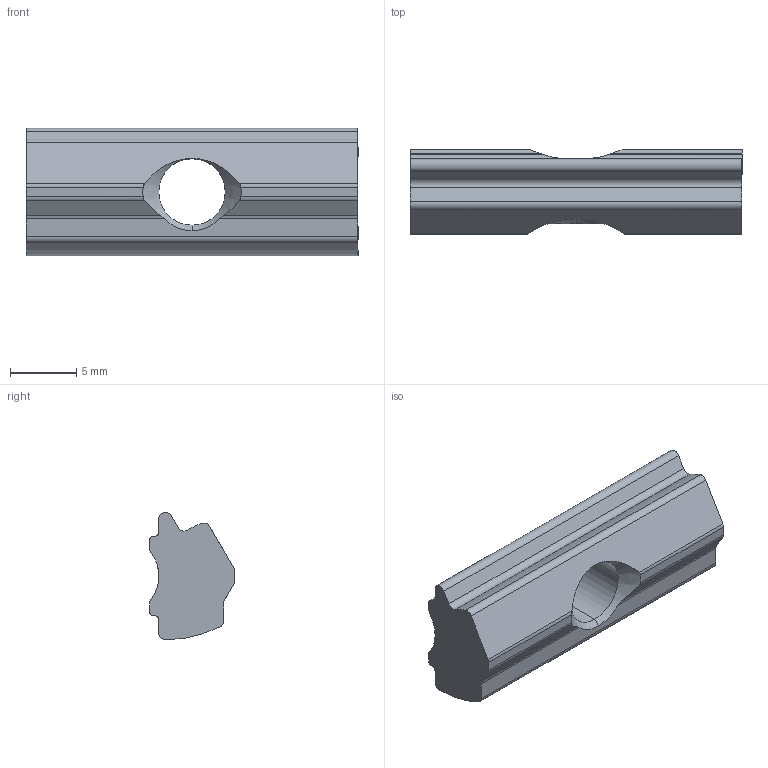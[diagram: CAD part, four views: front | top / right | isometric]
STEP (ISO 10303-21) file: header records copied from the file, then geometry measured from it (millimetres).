
FILE_DESCRIPTION((''),'2;1');
FILE_NAME('E:\端から修正\NAMT-06-5.stp','2013-11-07T16:16:23',('AMS8'),(''),'Autodesk Inventor 2008','Autodesk Inventor 2008','');
FILE_SCHEMA(('AUTOMOTIVE_DESIGN { 1 0 10303 214 1 1 1 1 }'));
Length unit declared in the file: millimetre
Products named in the file (4): NAST-06-5; DEFAULT; DEFAULTA
Assembly tree (3 placements, depth 3):
  NAST-06-5
    DEFAULT
      DEFAULT
      DEFAULTA
Bounding box: 25 x 6.4 x 9.6 mm (x, y, z)
Volume: 982.7 mm3; surface area: 817.2 mm2
Topology: 1 solids, 1 shells, 52 faces, 168 edges, 116 vertices
Faces by surface type: cylinder 29, plane 19, cone 4
Entity records: 2102 total; most frequent: CARTESIAN_POINT 529, ORIENTED_EDGE 336, DIRECTION 304, EDGE_CURVE 168, VERTEX_POINT 116, AXIS2_PLACEMENT_3D 115, VECTOR 74, LINE 74
